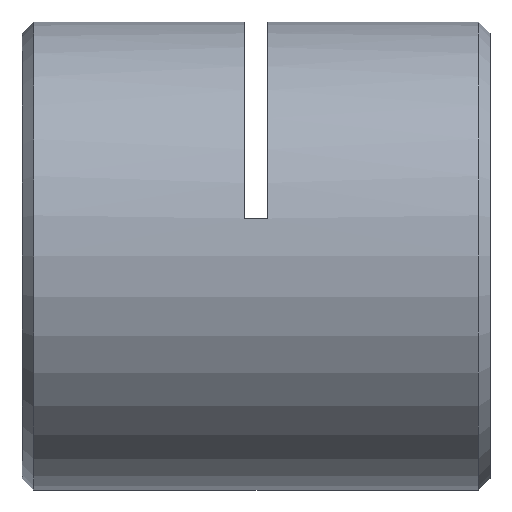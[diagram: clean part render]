
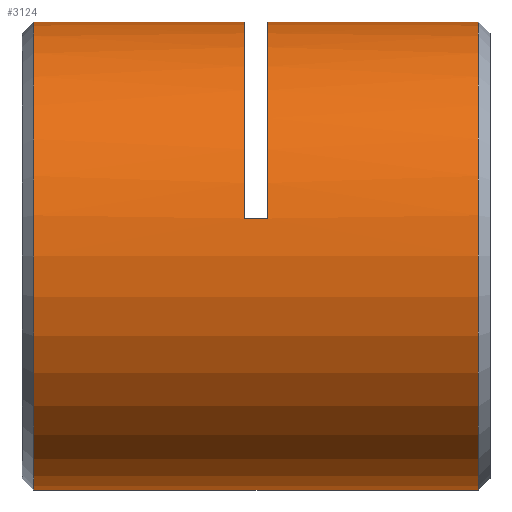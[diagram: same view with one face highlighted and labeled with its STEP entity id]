
A CAD part, left-side view. The second image highlights one B-rep face of the part: STEP entity #3124.
In plain terms, the highlighted cylindrical face has radius 8 mm (diameter 16 mm), a partial arc.
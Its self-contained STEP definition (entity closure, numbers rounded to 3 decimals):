
#46 = ORIENTED_EDGE ( 'NONE', *, *, #3751, .T. ) ;
#48 = DIRECTION ( 'NONE',  ( 0., 1., 0. ) ) ;
#94 = FACE_OUTER_BOUND ( 'NONE', #1450, .T. ) ;
#117 = EDGE_CURVE ( 'NONE', #2138, #492, #406, .T. ) ;
#203 = AXIS2_PLACEMENT_3D ( 'NONE', #1237, #1264, #3667 ) ;
#282 = ORIENTED_EDGE ( 'NONE', *, *, #1702, .F. ) ;
#340 = DIRECTION ( 'NONE',  ( 0., 0., 1. ) ) ;
#346 = VERTEX_POINT ( 'NONE', #2556 ) ;
#357 = DIRECTION ( 'NONE',  ( 0., 1., 0. ) ) ;
#406 = CIRCLE ( 'NONE', #1809, 8. ) ;
#444 = CARTESIAN_POINT ( 'NONE',  ( -7.897, 8.25, 1.28 ) ) ;
#445 = EDGE_CURVE ( 'NONE', #2392, #492, #1390, .T. ) ;
#464 = ORIENTED_EDGE ( 'NONE', *, *, #2018, .T. ) ;
#492 = VERTEX_POINT ( 'NONE', #3187 ) ;
#535 = CIRCLE ( 'NONE', #203, 8. ) ;
#563 = DIRECTION ( 'NONE',  ( 0., 0., 1. ) ) ;
#577 = VECTOR ( 'NONE', #48, 1000. ) ;
#594 = ORIENTED_EDGE ( 'NONE', *, *, #117, .F. ) ;
#609 = CARTESIAN_POINT ( 'NONE',  ( 0., 0.25, -8. ) ) ;
#625 = CARTESIAN_POINT ( 'NONE',  ( 0., 0.25, 8. ) ) ;
#716 = ORIENTED_EDGE ( 'NONE', *, *, #2560, .T. ) ;
#727 = CYLINDRICAL_SURFACE ( 'NONE', #2546, 8. ) ;
#861 = CIRCLE ( 'NONE', #2723, 8. ) ;
#947 = CARTESIAN_POINT ( 'NONE',  ( 0., 7.85, 0. ) ) ;
#970 = CARTESIAN_POINT ( 'NONE',  ( 0., 15.85, 8. ) ) ;
#1055 = CARTESIAN_POINT ( 'NONE',  ( 0., 0.25, 0. ) ) ;
#1073 = CIRCLE ( 'NONE', #3191, 8. ) ;
#1237 = CARTESIAN_POINT ( 'NONE',  ( 0., 8.65, 0. ) ) ;
#1264 = DIRECTION ( 'NONE',  ( 0., 1., 0. ) ) ;
#1390 = LINE ( 'NONE', #3476, #577 ) ;
#1449 = CARTESIAN_POINT ( 'NONE',  ( 0., 0.65, -8. ) ) ;
#1450 = EDGE_LOOP ( 'NONE', ( #282, #46, #2470, #594, #3195, #3071, #716, #464 ) ) ;
#1702 = EDGE_CURVE ( 'NONE', #2014, #3471, #3410, .T. ) ;
#1797 = LINE ( 'NONE', #625, #1850 ) ;
#1809 = AXIS2_PLACEMENT_3D ( 'NONE', #947, #3192, #2931 ) ;
#1850 = VECTOR ( 'NONE', #3696, 1000. ) ;
#1877 = EDGE_CURVE ( 'NONE', #2138, #346, #2047, .T. ) ;
#1884 = CARTESIAN_POINT ( 'NONE',  ( 0., 8.65, 8. ) ) ;
#1903 = VECTOR ( 'NONE', #2599, 1000. ) ;
#2014 = VERTEX_POINT ( 'NONE', #1449 ) ;
#2018 = EDGE_CURVE ( 'NONE', #3148, #3471, #1073, .T. ) ;
#2047 = LINE ( 'NONE', #444, #1903 ) ;
#2138 = VERTEX_POINT ( 'NONE', #2414 ) ;
#2304 = DIRECTION ( 'NONE',  ( 0., 1., 0. ) ) ;
#2392 = VERTEX_POINT ( 'NONE', #3273 ) ;
#2414 = CARTESIAN_POINT ( 'NONE',  ( -7.897, 7.85, 1.28 ) ) ;
#2467 = DIRECTION ( 'NONE',  ( 0., 1., 0. ) ) ;
#2470 = ORIENTED_EDGE ( 'NONE', *, *, #445, .T. ) ;
#2546 = AXIS2_PLACEMENT_3D ( 'NONE', #1055, #2304, #563 ) ;
#2555 = EDGE_CURVE ( 'NONE', #346, #3085, #535, .T. ) ;
#2556 = CARTESIAN_POINT ( 'NONE',  ( -7.897, 8.65, 1.28 ) ) ;
#2560 = EDGE_CURVE ( 'NONE', #3085, #3148, #1797, .T. ) ;
#2599 = DIRECTION ( 'NONE',  ( 0., 1., 0. ) ) ;
#2618 = VECTOR ( 'NONE', #2467, 1000. ) ;
#2723 = AXIS2_PLACEMENT_3D ( 'NONE', #2796, #357, #340 ) ;
#2783 = CARTESIAN_POINT ( 'NONE',  ( 0., 15.85, -8. ) ) ;
#2796 = CARTESIAN_POINT ( 'NONE',  ( 0., 0.65, 0. ) ) ;
#2931 = DIRECTION ( 'NONE',  ( 0., 0., 1. ) ) ;
#3071 = ORIENTED_EDGE ( 'NONE', *, *, #2555, .T. ) ;
#3085 = VERTEX_POINT ( 'NONE', #1884 ) ;
#3124 = ADVANCED_FACE ( 'NONE', ( #94 ), #727, .T. ) ;
#3148 = VERTEX_POINT ( 'NONE', #970 ) ;
#3187 = CARTESIAN_POINT ( 'NONE',  ( 0., 7.85, 8. ) ) ;
#3191 = AXIS2_PLACEMENT_3D ( 'NONE', #3840, #3555, #3279 ) ;
#3192 = DIRECTION ( 'NONE',  ( 0., 1., 0. ) ) ;
#3195 = ORIENTED_EDGE ( 'NONE', *, *, #1877, .T. ) ;
#3273 = CARTESIAN_POINT ( 'NONE',  ( 0., 0.65, 8. ) ) ;
#3279 = DIRECTION ( 'NONE',  ( 0., 0., -1. ) ) ;
#3410 = LINE ( 'NONE', #609, #2618 ) ;
#3471 = VERTEX_POINT ( 'NONE', #2783 ) ;
#3476 = CARTESIAN_POINT ( 'NONE',  ( 0., 0.25, 8. ) ) ;
#3555 = DIRECTION ( 'NONE',  ( 0., -1., 0. ) ) ;
#3667 = DIRECTION ( 'NONE',  ( 0., 0., 1. ) ) ;
#3696 = DIRECTION ( 'NONE',  ( 0., 1., 0. ) ) ;
#3751 = EDGE_CURVE ( 'NONE', #2014, #2392, #861, .T. ) ;
#3840 = CARTESIAN_POINT ( 'NONE',  ( 0., 15.85, 0. ) ) ;
